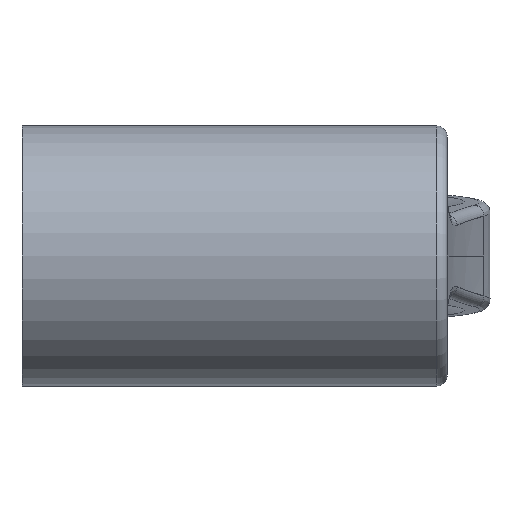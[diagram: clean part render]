
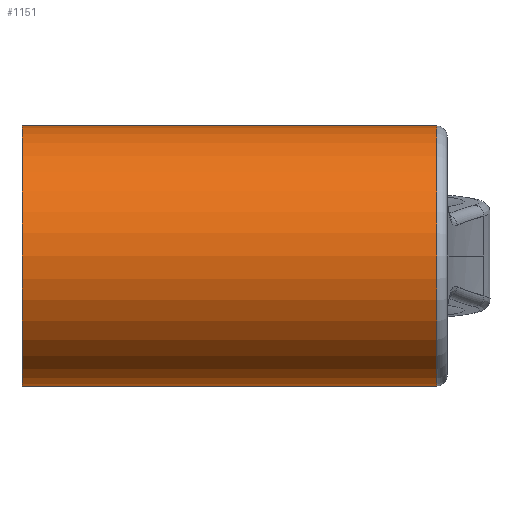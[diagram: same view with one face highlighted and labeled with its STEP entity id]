
A CAD part, front view. The second image highlights one B-rep face of the part: STEP entity #1151.
In plain terms, the highlighted cylindrical face has radius 10 mm (diameter 20 mm), a partial arc.
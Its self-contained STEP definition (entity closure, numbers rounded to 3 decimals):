
#56 = ORIENTED_EDGE ( 'NONE', *, *, #576, .F. ) ;
#61 = DIRECTION ( 'NONE',  ( -1., 0., 0. ) ) ;
#81 = VERTEX_POINT ( 'NONE', #2116 ) ;
#111 = CIRCLE ( 'NONE', #391, 10. ) ;
#122 = CARTESIAN_POINT ( 'NONE',  ( 0., 0., -10. ) ) ;
#132 = EDGE_LOOP ( 'NONE', ( #56, #252, #2120, #523 ) ) ;
#252 = ORIENTED_EDGE ( 'NONE', *, *, #531, .T. ) ;
#323 = VECTOR ( 'NONE', #1692, 1000. ) ;
#331 = DIRECTION ( 'NONE',  ( 0., 0., -1. ) ) ;
#339 = DIRECTION ( 'NONE',  ( -1., 0., 0. ) ) ;
#369 = FACE_OUTER_BOUND ( 'NONE', #132, .T. ) ;
#391 = AXIS2_PLACEMENT_3D ( 'NONE', #1795, #1343, #657 ) ;
#523 = ORIENTED_EDGE ( 'NONE', *, *, #773, .F. ) ;
#531 = EDGE_CURVE ( 'NONE', #1403, #81, #676, .T. ) ;
#576 = EDGE_CURVE ( 'NONE', #1403, #1889, #660, .T. ) ;
#603 = AXIS2_PLACEMENT_3D ( 'NONE', #813, #1169, #331 ) ;
#657 = DIRECTION ( 'NONE',  ( 0., 0., 1. ) ) ;
#660 = LINE ( 'NONE', #122, #323 ) ;
#676 = CIRCLE ( 'NONE', #603, 10. ) ;
#773 = EDGE_CURVE ( 'NONE', #1889, #1205, #111, .T. ) ;
#805 = CARTESIAN_POINT ( 'NONE',  ( 31.891, 0., -10. ) ) ;
#813 = CARTESIAN_POINT ( 'NONE',  ( 31.891, 0., 0. ) ) ;
#1015 = CARTESIAN_POINT ( 'NONE',  ( 0., 0., 0. ) ) ;
#1044 = CARTESIAN_POINT ( 'NONE',  ( 0., 0., 10. ) ) ;
#1151 = ADVANCED_FACE ( 'NONE', ( #369 ), #1544, .T. ) ;
#1169 = DIRECTION ( 'NONE',  ( -1., 0., 0. ) ) ;
#1205 = VERTEX_POINT ( 'NONE', #1044 ) ;
#1343 = DIRECTION ( 'NONE',  ( -1., 0., 0. ) ) ;
#1403 = VERTEX_POINT ( 'NONE', #805 ) ;
#1418 = LINE ( 'NONE', #2162, #1844 ) ;
#1544 = CYLINDRICAL_SURFACE ( 'NONE', #1611, 10. ) ;
#1565 = DIRECTION ( 'NONE',  ( 0., 0., 1. ) ) ;
#1611 = AXIS2_PLACEMENT_3D ( 'NONE', #1015, #339, #1565 ) ;
#1621 = EDGE_CURVE ( 'NONE', #81, #1205, #1418, .T. ) ;
#1692 = DIRECTION ( 'NONE',  ( -1., 0., 0. ) ) ;
#1795 = CARTESIAN_POINT ( 'NONE',  ( 0., 0., 0. ) ) ;
#1844 = VECTOR ( 'NONE', #61, 1000. ) ;
#1889 = VERTEX_POINT ( 'NONE', #2092 ) ;
#2092 = CARTESIAN_POINT ( 'NONE',  ( 0., 0., -10. ) ) ;
#2116 = CARTESIAN_POINT ( 'NONE',  ( 31.891, 0., 10. ) ) ;
#2120 = ORIENTED_EDGE ( 'NONE', *, *, #1621, .T. ) ;
#2162 = CARTESIAN_POINT ( 'NONE',  ( 0., 0., 10. ) ) ;
